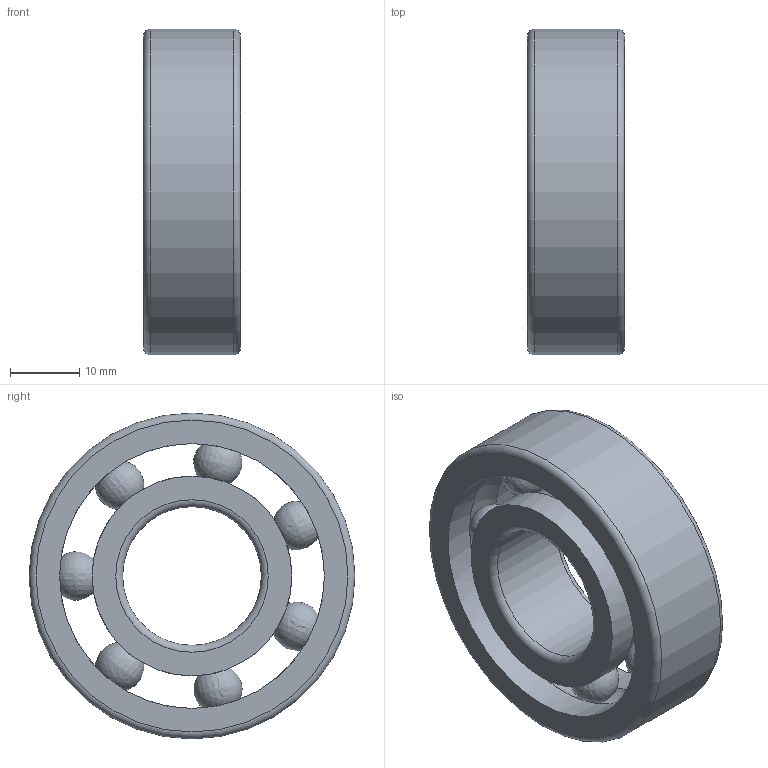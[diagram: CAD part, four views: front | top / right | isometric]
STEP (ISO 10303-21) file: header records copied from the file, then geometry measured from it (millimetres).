
FILE_DESCRIPTION(/* description */ ('깊은 그루브 볼 베어링'),/* implementation_level */ '2;1');
FILE_NAME(/* name */ '',/* time_stamp */ '2025-08-05T11:21:01+09:00',/* author */ ('jhkim'),/* organization */ (''),/* preprocessor_version */ 'ST-DEVELOPER v20.1',/* originating_system */ 'Autodesk Inventor 2026',/* authorisation */ '');
FILE_SCHEMA (('AUTOMOTIVE_DESIGN { 1 0 10303 214 3 1 1 }'));
Length unit declared in the file: millimetre
Products named in the file (1): 베어링 6204
Bounding box: 14 x 47 x 47 mm (x, y, z)
Volume: 13264 mm3; surface area: 8789.1 mm2
Topology: 9 solids, 9 shells, 35 faces, 93 edges, 62 vertices
Faces by surface type: torus 18, sphere 7, cylinder 6, plane 4
Full cylindrical faces by diameter (mm): 20 x1, 28.802 x2, 38.198 x2, 47 x1
Entity records: 1309 total; most frequent: DIRECTION 252, CARTESIAN_POINT 219, ORIENTED_EDGE 186, AXIS2_PLACEMENT_3D 123, EDGE_CURVE 93, VERTEX_POINT 90, CIRCLE 87, EDGE_LOOP 53
